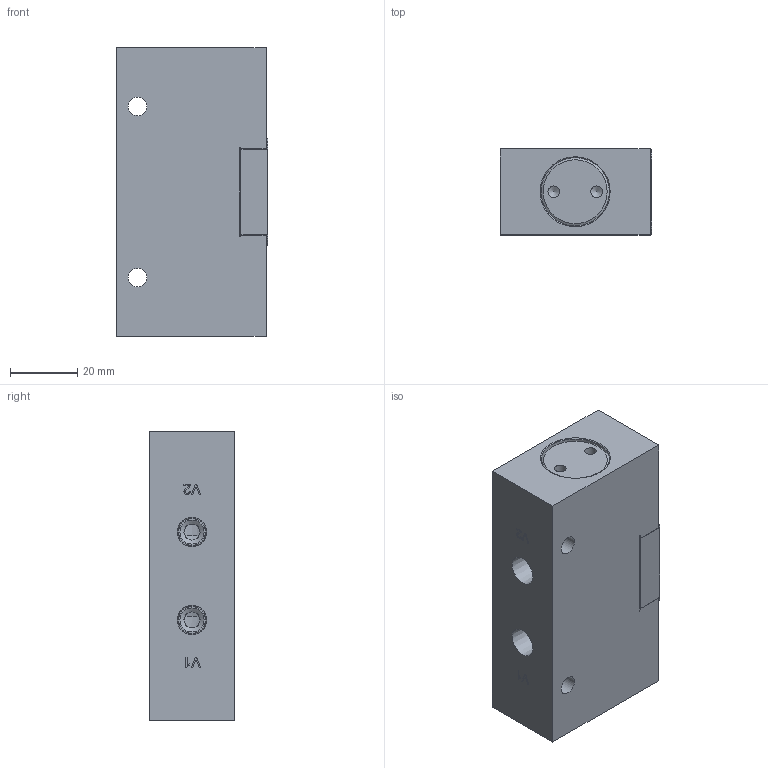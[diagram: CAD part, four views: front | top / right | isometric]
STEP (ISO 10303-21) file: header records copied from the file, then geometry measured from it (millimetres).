
FILE_DESCRIPTION(/* description */ (''),/* implementation_level */ '2;1');
FILE_NAME(/* name */ 'L:\ALADCO\Advertising\3D Content\Valves\Step Files - 2014-11-19 thru Present\Aladco #61120X.stp',/* time_stamp */ '2015-04-16T10:18:25-05:00',/* author */ ('dmatz'),/* organization */ ('Aladdin Eng. & Manf. Inc.'),/* preprocessor_version */ 'ST-DEVELOPER v15.2',/* originating_system */ 'Autodesk Inventor 2014',/* authorisation */ '0 in^3');
FILE_SCHEMA (('AUTOMOTIVE_DESIGN { 1 0 10303 214 3 1 1 }'));
Length unit declared in the file: inch
Products named in the file (8): 620055; 620030; 620047; 620046; 620059; 620058; 710-073SS; 611201
Bounding box: 44.95 x 25.4 x 85.72 mm (x, y, z)
Volume: 76357.3 mm3; surface area: 32328.9 mm2
Topology: 10 solids, 10 shells, 353 faces, 878 edges, 571 vertices
Faces by surface type: plane 142, cylinder 104, cone 48, bspline 42, torus 17
Full cylindrical faces by diameter (mm): 1.191 x2, 1.575 x2, 2.54 x1, 2.642 x4, 2.794 x2, 3.175 x2, 3.2 x2, 3.454 x4, 3.505 x4, 3.81 x8, 3.962 x8, 4.013 x1, 4.648 x1, 4.762 x5, 5.537 x2, 5.563 x2, 5.74 x4, 6.35 x4, 6.477 x2, 7.95 x6, 14.503 x2, 15.875 x1, 16.51 x4, 17.221 x2, 18.999 x4, 19.05 x4, 20.066 x2, 20.269 x2, 22.225 x2
Entity records: 8913 total; most frequent: CARTESIAN_POINT 2704, DIRECTION 1106, ORIENTED_EDGE 1078, EDGE_CURVE 539, EDGE_LOOP 472, AXIS2_PLACEMENT_3D 435, VERTEX_POINT 411, ADVANCED_FACE 279
